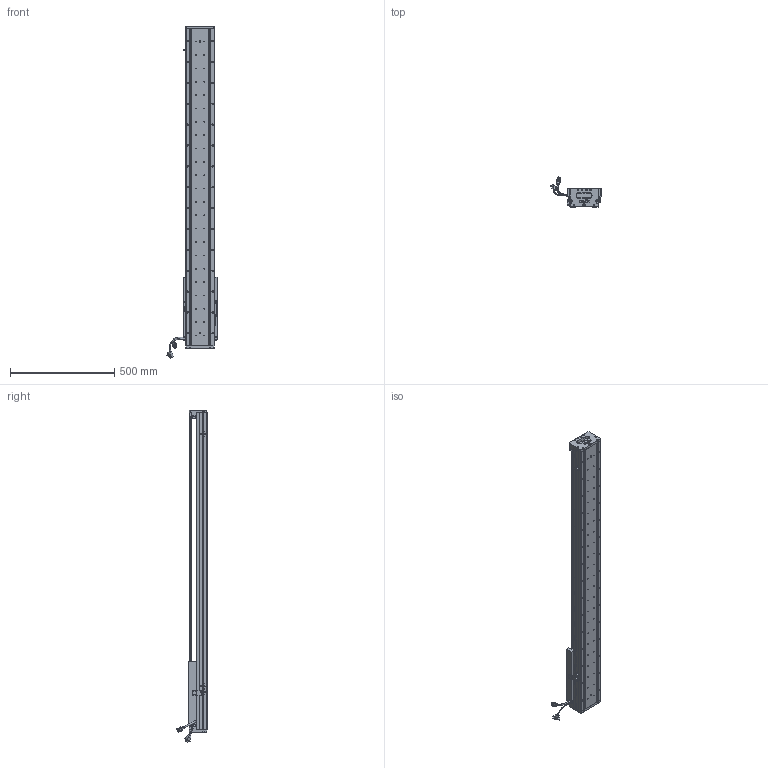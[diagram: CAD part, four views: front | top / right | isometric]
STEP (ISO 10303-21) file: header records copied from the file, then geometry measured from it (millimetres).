
FILE_DESCRIPTION (( 'STEP AP203' ), '1' );
FILE_NAME ('Z4-RY140D-1-L500-B-K.SLDASM_1150.step', '2021-05-17T08:15:53', ( '盈信电脑' ), ( '东莞市道滘镇水果街19号' ), 'SwSTEP 2.0', 'SolidWorks 2016', '' );
FILE_SCHEMA (( 'CONFIG_CONTROL_DESIGN' ));
Length unit declared in the file: millimetre
Products named in the file (36): SCREW-M1.6-2; PBU_SHEET; HARNESS-Part-2; 詩湍狟揤裔; SCALE-Part-2; HOLDER0; LABEL-Part-1; 140-Z-臏賑輸盄裔(21遴); Z4-RY140圉猾敕臏賑輸(21遴); SCALE-Part-1; PSLH080_PSLF2; COVER-Part-1; 140蚥薯蝶輸; Z-RY140感应器672光电感应片; Z-140詩湍傷裔啣; SEAL; HARNESS; SCALE; 榋妏寠巭燃_暯_M2_2; LABEL; SCREW-M1.7-1; SCREW-M1.6-3; 詩湍奻揤裔; Z4-RY140-L500直线电机模组底座_1150; SCREW-M1.7; Z4-RY140-L500詩湍100mm遵_1150; 覜茼ん672; 080黍杅芛假蚾釱21遴; HARNESS-Part-1; COVER; SCREW-M1.6; 140雄赽晤鎢ん堤盄; SHIELDPLATE; SCREW-M1.6-1; Z4-RY140D-1-L500-B-K.SLDASM_1150; SEAL-Part-1
Assembly tree (41 placements, depth 4):
  Z4-RY140D-1-L500-B-K.SLDASM_1150
    Z4-RY140-L500直线电机模组底座_1150
    Z-RY140感应器672光电感应片
    Z4-RY140圉猾敕臏賑輸(21遴)
    覜茼ん672  x3
    Z4-RY140-L500詩湍100mm遵_1150
    PSLH080_PSLF2
      SCALE
        SCALE-Part-1
        SCALE-Part-2
      HARNESS
        HARNESS-Part-1
        HARNESS-Part-2
      LABEL
        LABEL-Part-1
      COVER
        COVER-Part-1
      SEAL
        SEAL-Part-1
      榋妏寠巭燃_暯_M2_2
      SHIELDPLATE
      SCREW-M1.7
      SCREW-M1.7-1
      PBU_SHEET
      SCREW-M1.6
      SCREW-M1.6-1
      SCREW-M1.6-2
      SCREW-M1.6-3
      HOLDER0
    080黍杅芛假蚾釱21遴
    140-Z-臏賑輸盄裔(21遴)
    Z-140詩湍傷裔啣  x2
    詩湍狟揤裔  x2
    詩湍奻揤裔  x2
    140蚥薯蝶輸  x2
    140雄赽晤鎢ん堤盄
Bounding box: 239.83 x 143.88 x 1590.87 mm (x, y, z)
Volume: 5701112.9 mm3; surface area: 1456097.4 mm2
Topology: 36 solids, 36 shells, 3348 faces, 8934 edges, 5655 vertices
Faces by surface type: cylinder 1674, plane 1218, cone 334, torus 69, bspline 53
Entity records: 101298 total; most frequent: CARTESIAN_POINT 26777, ORIENTED_EDGE 14924, DIRECTION 14398, EDGE_CURVE 7462, AXIS2_PLACEMENT_3D 5324, VERTEX_POINT 4823, VECTOR 3750, LINE 3750
